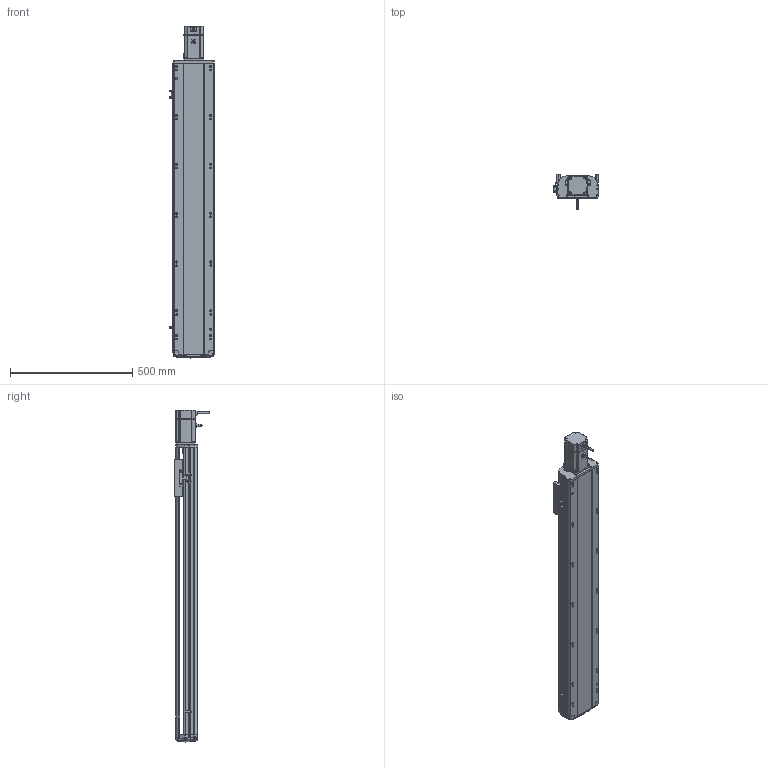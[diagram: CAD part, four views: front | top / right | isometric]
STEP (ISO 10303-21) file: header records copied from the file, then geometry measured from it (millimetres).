
FILE_DESCRIPTION (( 'STEP AP214' ), '1' );
FILE_NAME ('RTH17-XX-950-E-M75-C4.STEP', '2025-10-24T09:40:14', ( '' ), ( '' ), 'SwSTEP 2.0', 'SolidWorks 2018', '' );
FILE_SCHEMA (( 'AUTOMOTIVE_DESIGN' ));
Length unit declared in the file: millimetre
Products named in the file (9): N_RTH17-GY-001P^RTH17-XX-XX-E-M75-C4（方程式）; N_RTH17-E-004丝杆螺母连接座^RTH17-XX-XX-E-M75-C4（方程式）; N_M75^RTH17-XX-XX-E-M75-C4（方程式）; N_OMRON EE-SX672 換覜ん^RTH17-XX-XX-E-M75-C4ㄗ源最宒ㄘ; N_RTH17-E-008-P75电机板^RTH17-XX-XX-E-M75-C4（方程式）; N_RTH17-E-007上盖^RTH17-XX-XX-E-M75-C4（方程式）; N_RTH-L-012 感应片(外置)^RTH17-XX-XX-E-M75-C4（方程式）; N_RTH17-E-011底座^RTH17-XX-XX-E-M75-C4（方程式）; RTH17-XX-950-E-M75-C4
Assembly tree (10 placements, depth 2):
  RTH17-XX-950-E-M75-C4
    N_RTH17-E-011底座^RTH17-XX-XX-E-M75-C4（方程式）
    N_RTH17-E-007上盖^RTH17-XX-XX-E-M75-C4（方程式）
    N_M75^RTH17-XX-XX-E-M75-C4（方程式）
    N_RTH17-E-008-P75电机板^RTH17-XX-XX-E-M75-C4（方程式）
    N_OMRON EE-SX672 換覜ん^RTH17-XX-XX-E-M75-C4ㄗ源最宒ㄘ  x3
    N_RTH-L-012 感应片(外置)^RTH17-XX-XX-E-M75-C4（方程式）
    N_RTH17-E-004丝杆螺母连接座^RTH17-XX-XX-E-M75-C4（方程式）
    N_RTH17-GY-001P^RTH17-XX-XX-E-M75-C4（方程式）
Bounding box: 183.5 x 145.7 x 1358.19 mm (x, y, z)
Volume: 9904452.8 mm3; surface area: 1291655.4 mm2
Topology: 9 solids, 11 shells, 1796 faces, 4983 edges, 3230 vertices
Faces by surface type: plane 826, cylinder 556, bspline 377, cone 28, torus 9
Entity records: 53302 total; most frequent: CARTESIAN_POINT 20917, ORIENTED_EDGE 6990, DIRECTION 5867, EDGE_CURVE 3499, VERTEX_POINT 2266, AXIS2_PLACEMENT_3D 2003, VECTOR 1861, LINE 1861
